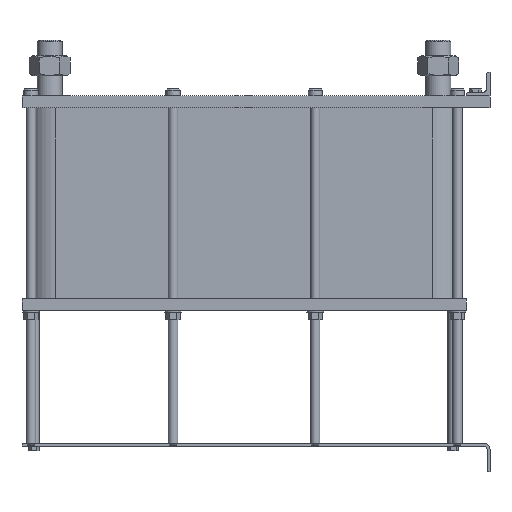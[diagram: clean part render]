
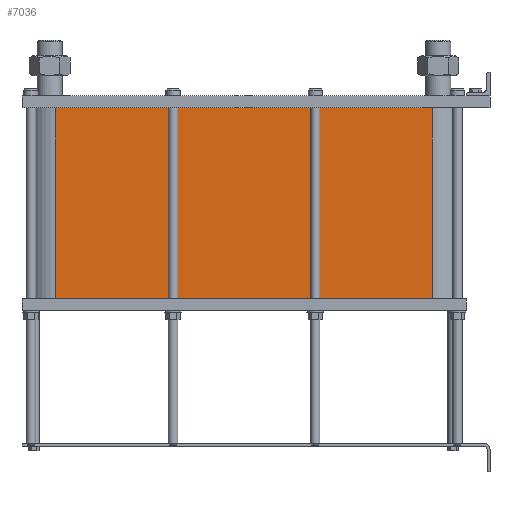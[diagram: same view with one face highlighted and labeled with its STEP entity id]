
A CAD part, left-side view. The second image highlights one B-rep face of the part: STEP entity #7036.
In plain terms, the highlighted planar face has unit normal (-1, 0, 0).
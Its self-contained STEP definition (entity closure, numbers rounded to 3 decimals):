
#999=LINE('',#15640,#1553);
#1031=LINE('',#15723,#1585);
#1032=LINE('',#15726,#1586);
#1033=LINE('',#15727,#1587);
#1553=VECTOR('',#9658,10.);
#1585=VECTOR('',#9736,10.);
#1586=VECTOR('',#9741,10.);
#1587=VECTOR('',#9742,10.);
#2117=FACE_OUTER_BOUND('',#2671,.T.);
#2671=EDGE_LOOP('',(#6246,#6247,#6248,#6249));
#3527=VERTEX_POINT('',#15634);
#3529=VERTEX_POINT('',#15638);
#3556=VERTEX_POINT('',#15720);
#3557=VERTEX_POINT('',#15722);
#4425=EDGE_CURVE('',#3529,#3527,#999,.T.);
#4466=EDGE_CURVE('',#3557,#3556,#1031,.T.);
#4468=EDGE_CURVE('',#3527,#3556,#1032,.T.);
#4469=EDGE_CURVE('',#3557,#3529,#1033,.T.);
#6246=ORIENTED_EDGE('',*,*,#4468,.F.);
#6247=ORIENTED_EDGE('',*,*,#4425,.F.);
#6248=ORIENTED_EDGE('',*,*,#4469,.F.);
#6249=ORIENTED_EDGE('',*,*,#4466,.T.);
#6608=PLANE('',#7812);
#7036=ADVANCED_FACE('',(#2117),#6608,.T.);
#7812=AXIS2_PLACEMENT_3D('',#15725,#9739,#9740);
#9658=DIRECTION('',(0.,0.,-1.));
#9736=DIRECTION('',(0.,0.,-1.));
#9739=DIRECTION('center_axis',(-1.,0.,0.));
#9740=DIRECTION('ref_axis',(0.,1.,0.));
#9741=DIRECTION('',(0.,1.,0.));
#9742=DIRECTION('',(0.,-1.,0.));
#15634=CARTESIAN_POINT('',(-72.,97.5,-322.4));
#15638=CARTESIAN_POINT('',(-72.,97.5,0.));
#15640=CARTESIAN_POINT('',(-72.,97.5,0.));
#15720=CARTESIAN_POINT('',(-72.,733.5,-322.4));
#15722=CARTESIAN_POINT('',(-72.,733.5,0.));
#15723=CARTESIAN_POINT('',(-72.,733.5,0.));
#15725=CARTESIAN_POINT('Origin',(-72.,97.5,0.));
#15726=CARTESIAN_POINT('',(-72.,256.5,-322.4));
#15727=CARTESIAN_POINT('',(-72.,733.5,0.));
